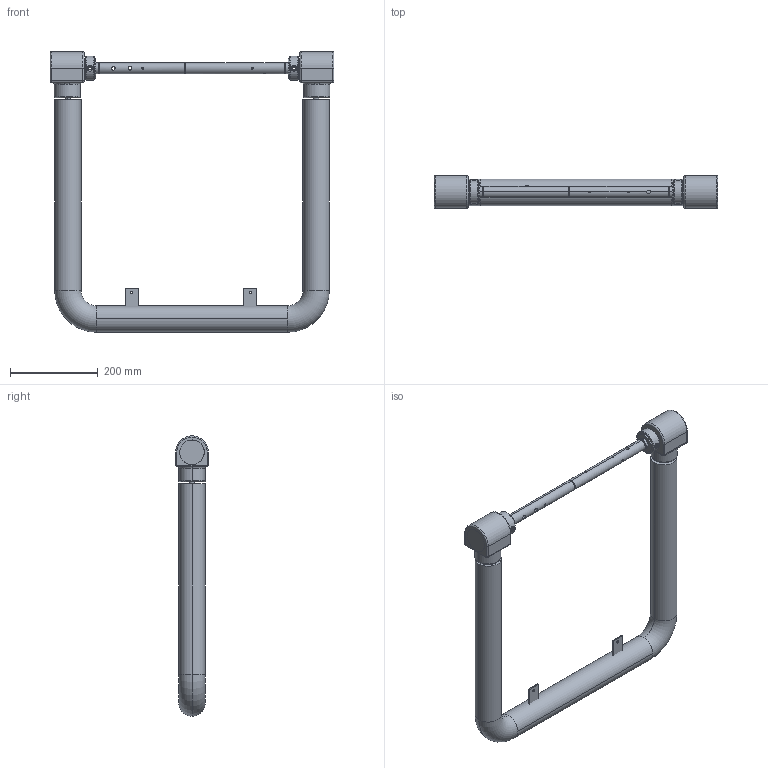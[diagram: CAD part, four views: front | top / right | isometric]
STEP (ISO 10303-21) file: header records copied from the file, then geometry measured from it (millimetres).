
FILE_DESCRIPTION (( 'STEP AP203' ), '1' );
FILE_NAME ('ligne_tp_Défaut_sldprt.STEP', '2020-10-12T20:07:01', ( '' ), ( '' ), 'SwSTEP 2.0', 'SolidWorks 2016', '' );
FILE_SCHEMA (( 'CONFIG_CONTROL_DESIGN' ));
Length unit declared in the file: millimetre
Products named in the file (1): ligne_tp_Défaut_sldprt
Bounding box: 644.55 x 75 x 637.5 mm (x, y, z)
Volume: 5348466.5 mm3; surface area: 646584.7 mm2
Topology: 41 solids, 41 shells, 637 faces, 1458 edges, 882 vertices
Faces by surface type: cylinder 278, cone 172, plane 109, torus 50, sphere 16, bspline 12
Entity records: 20933 total; most frequent: CARTESIAN_POINT 6186, DIRECTION 3292, ORIENTED_EDGE 2884, EDGE_CURVE 1442, AXIS2_PLACEMENT_3D 1386, VERTEX_POINT 882, CIRCLE 760, EDGE_LOOP 734
